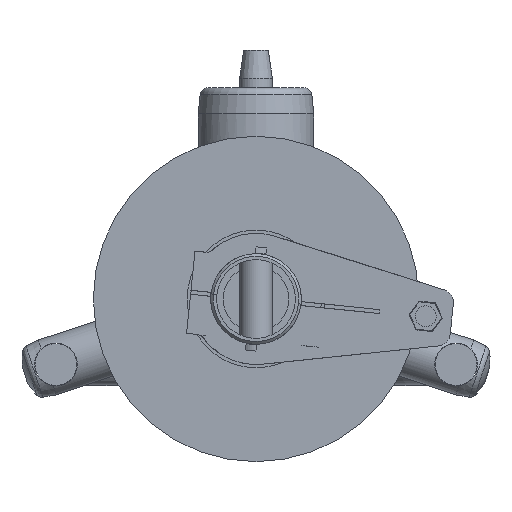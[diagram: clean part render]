
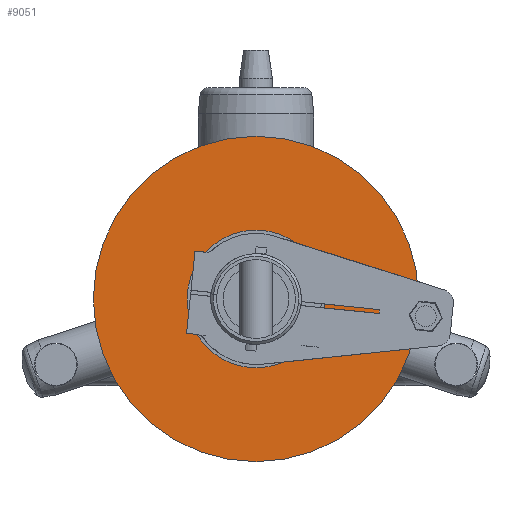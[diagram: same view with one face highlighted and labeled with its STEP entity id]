
A CAD part, front view. The second image highlights one B-rep face of the part: STEP entity #9051.
In plain terms, the highlighted planar face has unit normal (0, -1, 0).
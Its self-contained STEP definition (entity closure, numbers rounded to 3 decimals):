
#295 = DIRECTION ( 'NONE',  ( 0., -1., 0. ) ) ;
#1258 = CIRCLE ( 'NONE', #11674, 52.5 ) ;
#1305 = DIRECTION ( 'NONE',  ( 0., 0., -1. ) ) ;
#1465 = ORIENTED_EDGE ( 'NONE', *, *, #5131, .F. ) ;
#1918 = DIRECTION ( 'NONE',  ( 0., -1., 0. ) ) ;
#2337 = CARTESIAN_POINT ( 'NONE',  ( 0., 0., -52.5 ) ) ;
#2907 = CARTESIAN_POINT ( 'NONE',  ( 0., 0., 52.5 ) ) ;
#3068 = AXIS2_PLACEMENT_3D ( 'NONE', #4951, #16626, #6638 ) ;
#3783 = EDGE_CURVE ( 'NONE', #17418, #8497, #17766, .T. ) ;
#3953 = CARTESIAN_POINT ( 'NONE',  ( 0., 0., 124. ) ) ;
#4951 = CARTESIAN_POINT ( 'NONE',  ( 0., 0., 0. ) ) ;
#5100 = EDGE_CURVE ( 'NONE', #8497, #17418, #15634, .T. ) ;
#5131 = EDGE_CURVE ( 'NONE', #6335, #17776, #1258, .T. ) ;
#5698 = DIRECTION ( 'NONE',  ( 0., -1., 0. ) ) ;
#5815 = ORIENTED_EDGE ( 'NONE', *, *, #21420, .F. ) ;
#5844 = FACE_OUTER_BOUND ( 'NONE', #20048, .T. ) ;
#6335 = VERTEX_POINT ( 'NONE', #8278 ) ;
#6638 = DIRECTION ( 'NONE',  ( 0., 0., -1. ) ) ;
#8278 = CARTESIAN_POINT ( 'NONE',  ( 0., 0., -52.5 ) ) ;
#8337 = ORIENTED_EDGE ( 'NONE', *, *, #3783, .T. ) ;
#8497 = VERTEX_POINT ( 'NONE', #3953 ) ;
#8958 = PLANE ( 'NONE',  #12038 ) ;
#9051 = ADVANCED_FACE ( 'NONE', ( #5844, #14176 ), #8958, .T. ) ;
#9424 = AXIS2_PLACEMENT_3D ( 'NONE', #11895, #1918, #13564 ) ;
#9690 = AXIS2_PLACEMENT_3D ( 'NONE', #21306, #11311, #1305 ) ;
#10295 = CARTESIAN_POINT ( 'NONE',  ( 0., 0., 0. ) ) ;
#10889 = CIRCLE ( 'NONE', #3068, 52.5 ) ;
#11269 = EDGE_LOOP ( 'NONE', ( #1465, #5815 ) ) ;
#11311 = DIRECTION ( 'NONE',  ( 0., -1., 0. ) ) ;
#11674 = AXIS2_PLACEMENT_3D ( 'NONE', #10295, #295, #11975 ) ;
#11895 = CARTESIAN_POINT ( 'NONE',  ( 0., 0., 0. ) ) ;
#11975 = DIRECTION ( 'NONE',  ( 0., 0., -1. ) ) ;
#12038 = AXIS2_PLACEMENT_3D ( 'NONE', #2337, #5698, #17380 ) ;
#13564 = DIRECTION ( 'NONE',  ( 0., 0., -1. ) ) ;
#14176 = FACE_BOUND ( 'NONE', #11269, .T. ) ;
#15496 = CARTESIAN_POINT ( 'NONE',  ( 0., 0., -124. ) ) ;
#15634 = CIRCLE ( 'NONE', #9424, 124. ) ;
#16626 = DIRECTION ( 'NONE',  ( 0., -1., 0. ) ) ;
#17380 = DIRECTION ( 'NONE',  ( 0., 0., -1. ) ) ;
#17418 = VERTEX_POINT ( 'NONE', #15496 ) ;
#17766 = CIRCLE ( 'NONE', #9690, 124. ) ;
#17776 = VERTEX_POINT ( 'NONE', #2907 ) ;
#19433 = ORIENTED_EDGE ( 'NONE', *, *, #5100, .T. ) ;
#20048 = EDGE_LOOP ( 'NONE', ( #8337, #19433 ) ) ;
#21306 = CARTESIAN_POINT ( 'NONE',  ( 0., 0., 0. ) ) ;
#21420 = EDGE_CURVE ( 'NONE', #17776, #6335, #10889, .T. ) ;
